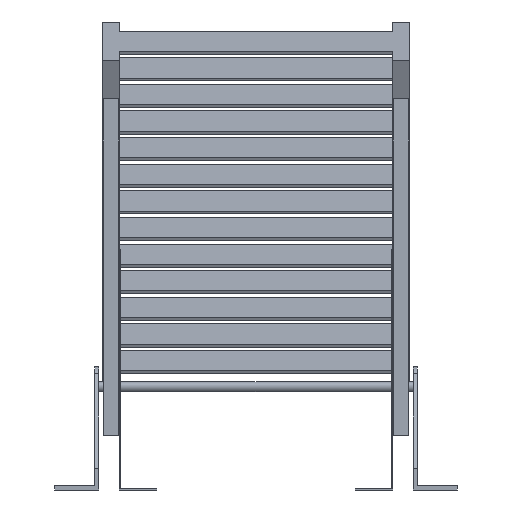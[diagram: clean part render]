
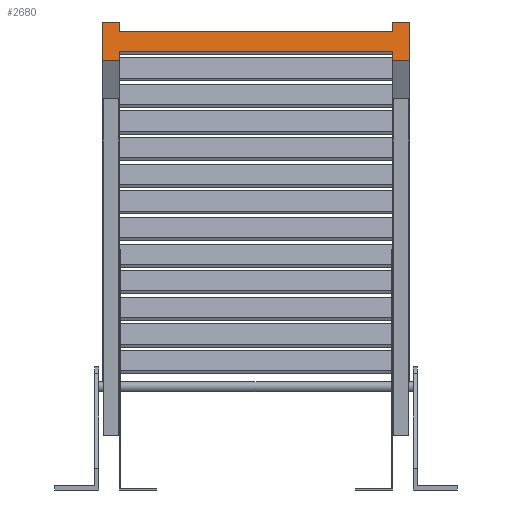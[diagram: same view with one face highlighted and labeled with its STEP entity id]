
A CAD part, front view. The second image highlights one B-rep face of the part: STEP entity #2680.
In plain terms, the highlighted planar face has unit normal (0, -0.99, 0.139).
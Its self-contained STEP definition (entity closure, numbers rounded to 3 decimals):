
#921=DIRECTION('',(0.,0.139,0.99));
#922=VECTOR('',#921,13.5);
#923=CARTESIAN_POINT('',(-200.,-3227.45,671.898));
#924=LINE('',#923,#922);
#925=DIRECTION('',(0.,-0.139,-0.99));
#926=VECTOR('',#925,13.5);
#927=CARTESIAN_POINT('',(200.,-3225.571,685.267));
#928=LINE('',#927,#926);
#929=DIRECTION('',(-1.,0.,0.));
#930=VECTOR('',#929,25.);
#931=CARTESIAN_POINT('',(225.,-3225.571,685.267));
#932=LINE('',#931,#930);
#933=DIRECTION('',(0.,0.139,0.99));
#934=VECTOR('',#933,57.);
#935=CARTESIAN_POINT('',(225.,-3233.504,628.821));
#936=LINE('',#935,#934);
#937=DIRECTION('',(1.,0.,0.));
#938=VECTOR('',#937,25.);
#939=CARTESIAN_POINT('',(200.,-3233.504,628.821));
#940=LINE('',#939,#938);
#941=DIRECTION('',(0.,-0.139,-0.99));
#942=VECTOR('',#941,13.5);
#943=CARTESIAN_POINT('',(200.,-3231.625,642.19));
#944=LINE('',#943,#942);
#945=DIRECTION('',(0.,0.139,0.99));
#946=VECTOR('',#945,13.5);
#947=CARTESIAN_POINT('',(-200.,-3233.504,628.821));
#948=LINE('',#947,#946);
#949=DIRECTION('',(1.,0.,0.));
#950=VECTOR('',#949,25.);
#951=CARTESIAN_POINT('',(-225.,-3233.504,628.821));
#952=LINE('',#951,#950);
#953=DIRECTION('',(0.,-0.139,-0.99));
#954=VECTOR('',#953,57.);
#955=CARTESIAN_POINT('',(-225.,-3225.571,685.267));
#956=LINE('',#955,#954);
#957=DIRECTION('',(-1.,0.,0.));
#958=VECTOR('',#957,25.);
#959=CARTESIAN_POINT('',(-200.,-3225.571,685.267));
#960=LINE('',#959,#958);
#965=DIRECTION('',(1.,0.,0.));
#966=VECTOR('',#965,400.);
#967=CARTESIAN_POINT('',(-200.,-3227.45,671.898));
#968=LINE('',#967,#966);
#969=DIRECTION('',(1.,0.,0.));
#970=VECTOR('',#969,400.);
#971=CARTESIAN_POINT('',(-200.,-3231.625,642.19));
#972=LINE('',#971,#970);
#1121=CARTESIAN_POINT('',(-200.,-3225.571,685.267));
#1122=CARTESIAN_POINT('',(-225.,-3225.571,685.267));
#1123=VERTEX_POINT('',#1121);
#1124=VERTEX_POINT('',#1122);
#1125=CARTESIAN_POINT('',(-225.,-3233.504,628.821));
#1126=CARTESIAN_POINT('',(-200.,-3233.504,628.821));
#1127=VERTEX_POINT('',#1125);
#1128=VERTEX_POINT('',#1126);
#1129=CARTESIAN_POINT('',(225.,-3233.504,628.821));
#1130=CARTESIAN_POINT('',(225.,-3225.571,685.267));
#1131=VERTEX_POINT('',#1129);
#1132=VERTEX_POINT('',#1130);
#1133=CARTESIAN_POINT('',(200.,-3233.504,628.821));
#1134=VERTEX_POINT('',#1133);
#1135=CARTESIAN_POINT('',(200.,-3225.571,685.267));
#1136=VERTEX_POINT('',#1135);
#1329=CARTESIAN_POINT('',(-200.,-3231.625,642.19));
#1331=VERTEX_POINT('',#1329);
#1333=CARTESIAN_POINT('',(-200.,-3227.45,671.898));
#1335=VERTEX_POINT('',#1333);
#1337=CARTESIAN_POINT('',(200.,-3231.625,642.19));
#1339=VERTEX_POINT('',#1337);
#1341=CARTESIAN_POINT('',(200.,-3227.45,671.898));
#1343=VERTEX_POINT('',#1341);
#2654=CARTESIAN_POINT('',(0.,-3257.537,457.817));
#2655=DIRECTION('',(0.,0.99,-0.139));
#2656=DIRECTION('',(1.,0.,0.));
#2657=AXIS2_PLACEMENT_3D('',#2654,#2655,#2656);
#2658=PLANE('',#2657);
#2659=ORIENTED_EDGE('',*,*,#1468,.F.);
#2661=ORIENTED_EDGE('',*,*,#2660,.T.);
#2662=ORIENTED_EDGE('',*,*,#1671,.F.);
#2664=ORIENTED_EDGE('',*,*,#2663,.F.);
#2666=ORIENTED_EDGE('',*,*,#2665,.F.);
#2667=ORIENTED_EDGE('',*,*,#2565,.F.);
#2668=ORIENTED_EDGE('',*,*,#1679,.F.);
#2670=ORIENTED_EDGE('',*,*,#2669,.F.);
#2671=ORIENTED_EDGE('',*,*,#1460,.F.);
#2673=ORIENTED_EDGE('',*,*,#2672,.F.);
#2675=ORIENTED_EDGE('',*,*,#2674,.F.);
#2677=ORIENTED_EDGE('',*,*,#2676,.F.);
#2678=EDGE_LOOP('',(#2659,#2661,#2662,#2664,#2666,#2667,#2668,#2670,#2671,#2673,
#2675,#2677));
#2679=FACE_OUTER_BOUND('',#2678,.F.);
#1460=EDGE_CURVE('',#1128,#1331,#948,.T.);
#1468=EDGE_CURVE('',#1335,#1123,#924,.T.);
#1671=EDGE_CURVE('',#1136,#1343,#928,.T.);
#1679=EDGE_CURVE('',#1339,#1134,#944,.T.);
#2565=EDGE_CURVE('',#1134,#1131,#940,.T.);
#2660=EDGE_CURVE('',#1335,#1343,#968,.T.);
#2663=EDGE_CURVE('',#1132,#1136,#932,.T.);
#2665=EDGE_CURVE('',#1131,#1132,#936,.T.);
#2669=EDGE_CURVE('',#1331,#1339,#972,.T.);
#2672=EDGE_CURVE('',#1127,#1128,#952,.T.);
#2674=EDGE_CURVE('',#1124,#1127,#956,.T.);
#2676=EDGE_CURVE('',#1123,#1124,#960,.T.);
#2680=ADVANCED_FACE('',(#2679),#2658,.F.);
